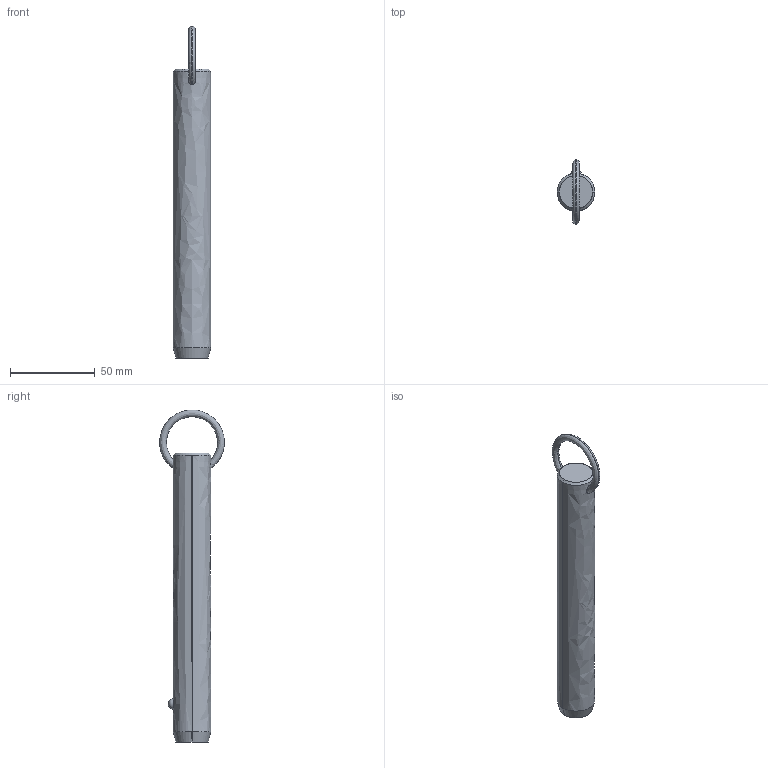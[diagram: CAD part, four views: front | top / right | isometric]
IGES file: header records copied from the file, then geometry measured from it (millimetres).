
Start section: SolidWorks IGES file using analytic representation for surfaces
Global section: file name: C:\Users\liam_\OneDrive\Documents\WORK\Work for WixRoyd\Job Files\J-00019 - Matt Davis CAD Checking\04. CAD Drawings\automotion20190605\P1250.2_v2\P1250.2_v2_20190729_IGES\P1250.087-520.igs; native system: SolidWorks 2017; preprocessor: SolidWorks 2017; author: liam_; date: 190730.001405; units: millimetre
Bounding box: 22.2 x 38.09 x 195.59 mm (x, y, z)
Surface area: 13514.1 mm2 (no closed solid volume)
Topology: 0 solids, 0 shells, 12 faces, 302 edges, 300 vertices
Faces by surface type: revolution 8, bspline 4
